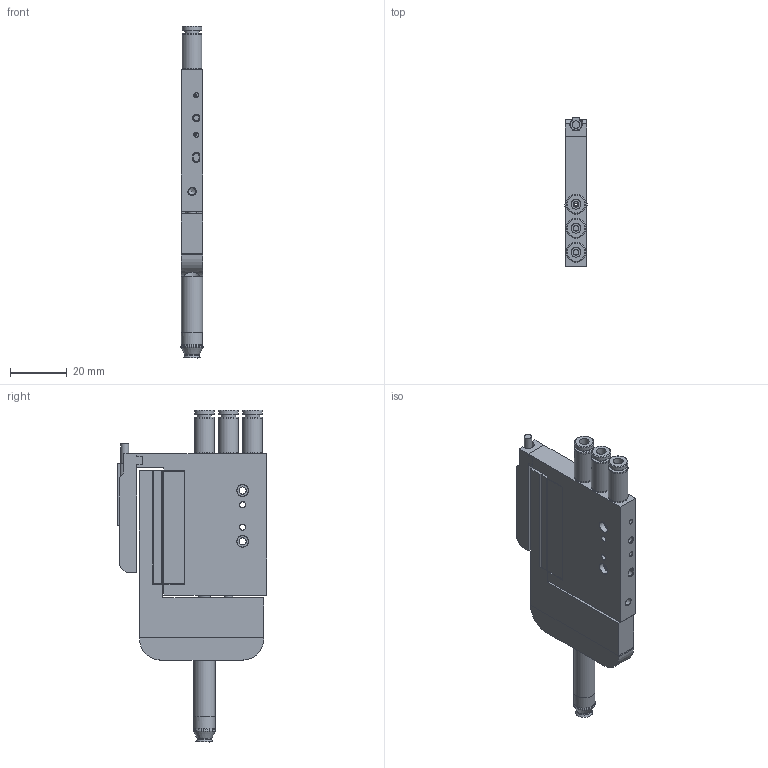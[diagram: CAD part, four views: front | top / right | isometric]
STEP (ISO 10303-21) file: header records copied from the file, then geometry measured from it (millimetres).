
FILE_DESCRIPTION(/* description */ (''),/* implementation_level */ '2;1');
FILE_NAME(/* name */ '7.7 -2022.2.20.stp',/* time_stamp */ '2022-05-08T23:52:24+08:00',/* author */ (''),/* organization */ (''),/* preprocessor_version */ 'ST-DEVELOPER v16',/* originating_system */ 'SIEMENS PLM Software NX 10.0',/* authorisation */ '');
FILE_SCHEMA (('AUTOMOTIVE_DESIGN { 1 0 10303 214 3 1 1 1 }'));
Length unit declared in the file: millimetre
Products named in the file (1): Admi0FE8B351kao2
Bounding box: 7.86 x 52.8 x 117.5 mm (x, y, z)
Volume: 26828.9 mm3; surface area: 20470.5 mm2
Topology: 23 solids, 23 shells, 475 faces, 1091 edges, 710 vertices
Faces by surface type: plane 304, cylinder 109, cone 39, torus 11, extrusion 6, sphere 3, bspline 3
Full cylindrical faces by diameter (mm): 1 x1, 1.6 x2, 1.7 x1, 1.8 x2, 1.886 x1, 2 x7, 2.5 x8, 2.7 x1, 2.9 x3, 3 x7, 3.3 x1, 3.4 x3, 3.5 x10, 4 x8, 4.2 x3, 4.25 x1, 4.5 x2, 5 x7, 5.5 x9, 6 x2, 6.9 x9, 7 x3, 7.5 x2
Entity records: 14985 total; most frequent: CARTESIAN_POINT 4424, DIRECTION 2114, ORIENTED_EDGE 1776, EDGE_CURVE 888, AXIS2_PLACEMENT_3D 784, EDGE_LOOP 727, VERTEX_POINT 657, VECTOR 546
